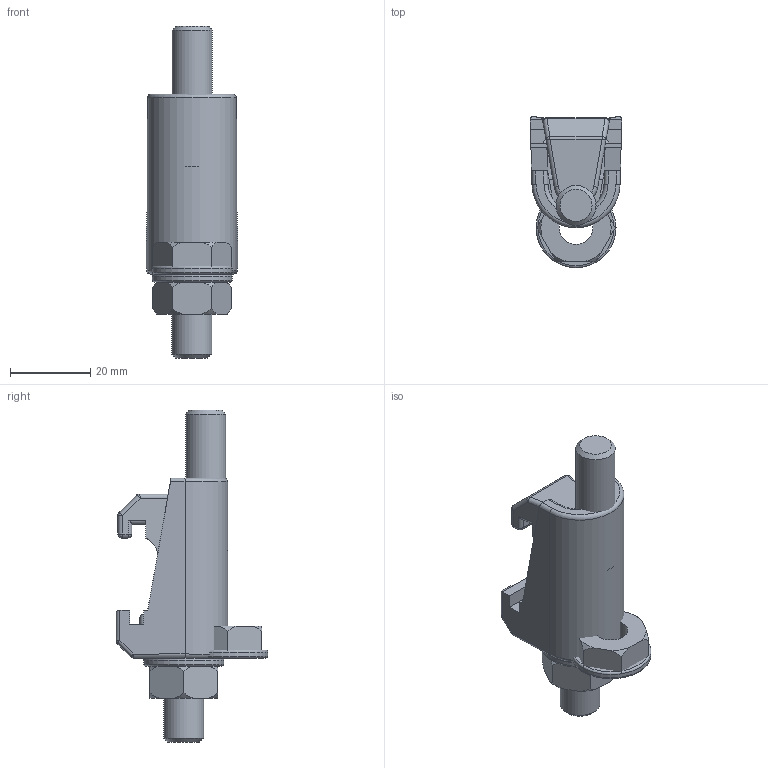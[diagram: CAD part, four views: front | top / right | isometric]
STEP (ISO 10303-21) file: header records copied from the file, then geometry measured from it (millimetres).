
FILE_DESCRIPTION( ( 'Unknown' ), '1' );
FILE_NAME( 'X:/Daten ( aktueller Bestand )/Projekte und Zeichnungen/Solid Edge/13 ISO-K Verbindungsbauteile und Zubehör/ISO-K-Klammerschraube/6003.stp', 'Unknown', ( 'Unknown' ), ( 'Unknown' ), 'XStep 1.0', 'Unknown', ' ' );
FILE_SCHEMA( ( 'automotive_design' ) );
Length unit declared in the file: millimetre
Products named in the file (5): Assem1; 6005-1; 6005-4; 6005-3; 6005-2
Bounding box: 22.94 x 37.88 x 83 mm (x, y, z)
Volume: 39930.5 mm3; surface area: 19968.2 mm2
Topology: 8 solids, 8 shells, 216 faces, 528 edges, 318 vertices
Faces by surface type: cylinder 82, plane 72, bspline 24, sphere 20, torus 16, cone 2
Full cylindrical faces by diameter (mm): 8.376 x2, 10 x4, 10.5 x2, 11 x2, 20 x2
Entity records: 3554 total; most frequent: CARTESIAN_POINT 883, DIRECTION 514, ORIENTED_EDGE 488, EDGE_CURVE 244, AXIS2_PLACEMENT_3D 199, VERTEX_POINT 156, EDGE_LOOP 126, FACE_OUTER_BOUND 118
